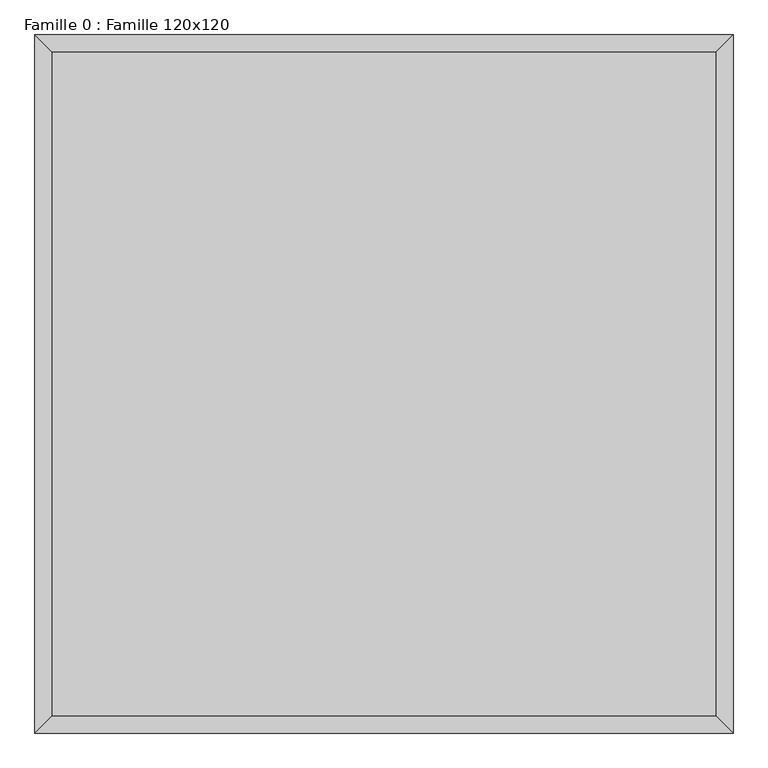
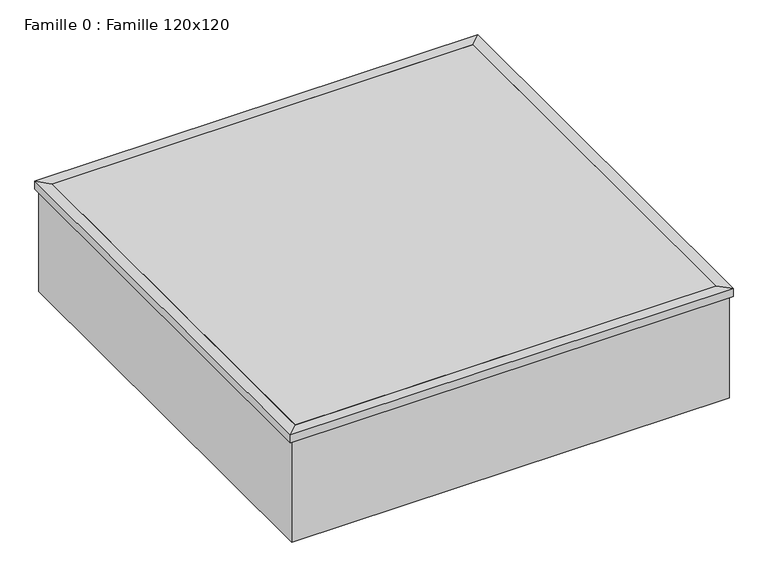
"""IFC4 building model written with IfcOpenShell, lengths in millimetres: proxy geometry, Famille 0 : Famille 120x120."""

from ifc_helpers import new_model, si_unit, frame, origin, place, context, project, spatial, polyline, outline, extrude, faceted_brep, source, transform, mapped, element, save


def famille_0_famille_120x120_8113ce87(model_context):
    return source(origin(), model_context, "Body", "SolidModel", [
        extrude(outline(polyline([(625.0, -625.0), (-625.0, -625.0), (-625.0, 625.0), (625.0, 625.0), (625.0, -625.0)])), frame((0.0, 0.0, 175.9914971), z_axis=(0.0, 0.0, 1.0), x_axis=(1.0, 0.0, 0.0)), (0.0, 0.0, 1.0), 19.1625783),
        faceted_brep([(-625.0, -625.0, 195.1540754), (-657.5, -657.5, 195.1540754), (657.5, -657.5, 195.1540754), (625.0, -625.0, 195.1540754), (-600.0, -600.0, -150.0), (-600.0, -600.0, 175.9914971), (600.0, -600.0, 175.9914971), (600.0, -600.0, -150.0), (-650.0, -650.0, -150.0), (650.0, -650.0, -150.0), (657.5, 657.5, 195.1540754), (625.0, 625.0, 195.1540754), (600.0, 600.0, 175.9914971), (600.0, 600.0, -150.0), (650.0, 650.0, -150.0), (-657.5, 657.5, 195.1540754), (-625.0, 625.0, 195.1540754), (-600.0, 600.0, 175.9914971), (-600.0, 600.0, -150.0), (-650.0, 650.0, -150.0), (-657.5, -657.5, 170.0), (-650.0, -650.0, 170.0), (650.0, -650.0, 170.0), (657.5, -657.5, 170.0), (-625.0, -625.0, 175.9914971), (625.0, -625.0, 175.9914971), (650.0, 650.0, 170.0), (657.5, 657.5, 170.0), (625.0, 625.0, 175.9914971), (-650.0, 650.0, 170.0), (-657.5, 657.5, 170.0), (-625.0, 625.0, 175.9914971)], [[[0, 1, 2, 3]], [[4, 5, 6, 7]], [[8, 4, 7, 9]], [[3, 2, 10, 11]], [[7, 6, 12, 13]], [[9, 7, 13, 14]], [[11, 10, 15, 16]], [[13, 12, 17, 18]], [[14, 13, 18, 19]], [[16, 15, 1, 0]], [[18, 17, 5, 4]], [[19, 18, 4, 8]], [[20, 21, 22, 23]], [[24, 0, 3, 25]], [[5, 24, 25, 6]], [[23, 22, 26, 27]], [[25, 3, 11, 28]], [[6, 25, 28, 12]], [[27, 26, 29, 30]], [[28, 11, 16, 31]], [[12, 28, 31, 17]], [[30, 29, 21, 20]], [[31, 16, 0, 24]], [[17, 31, 24, 5]], [[21, 8, 9, 22]], [[1, 20, 23, 2]], [[22, 9, 14, 26]], [[2, 23, 27, 10]], [[26, 14, 19, 29]], [[10, 27, 30, 15]], [[29, 19, 8, 21]], [[15, 30, 20, 1]]]),
    ])


if __name__ == "__main__":
    model = new_model("IFC4")
    model_context = context("Model", 3, world=origin())
    ifc_project = project(units=[si_unit("LENGTHUNIT", "METRE", prefix="MILLI")], contexts=[model_context])
    site = spatial("IfcSite", under=ifc_project)
    building = spatial("IfcBuilding", under=site)
    placement = place(None, origin())
    famille_0_famille_120x120_shape = famille_0_famille_120x120_8113ce87(model_context)
    element("IfcBuildingElementProxy", 1, Name="Famille 0 : Famille 120x120", ObjectType="Famille 0 : Famille 120x120", at=placement, inside=building, context=model_context, shape_type="MappedRepresentation", body=[
        mapped(famille_0_famille_120x120_shape, transform((0.0, 0.0, 0.0), x_axis=(1.0, 0.0, 0.0), y_axis=(0.0, 1.0, 0.0), z_axis=(0.0, 0.0, 1.0))),
    ])
    save(model, "model.ifc")
